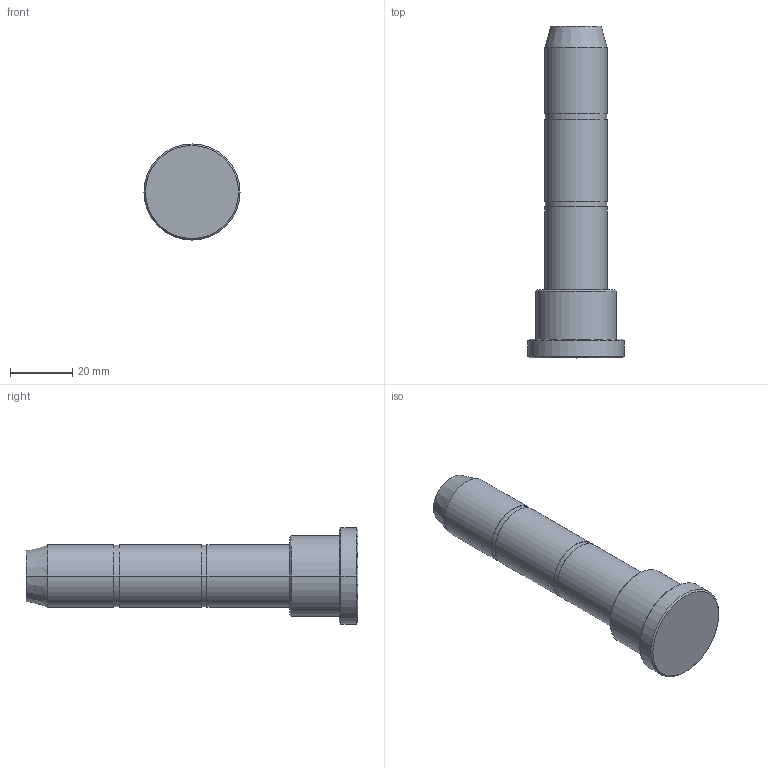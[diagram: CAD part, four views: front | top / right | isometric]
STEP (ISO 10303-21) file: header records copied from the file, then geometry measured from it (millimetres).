
FILE_DESCRIPTION (( 'STEP AP214' ), '1' );
FILE_NAME ('BR03 20x22x85.STEP', '2019-04-15T07:59:46', ( 'August' ), ( '' ), 'SwSTEP 2.0', 'SolidWorks 2018', '' );
FILE_SCHEMA (( 'AUTOMOTIVE_DESIGN' ));
Length unit declared in the file: millimetre
Products named in the file (1): BR03 20x22x85
Bounding box: 31 x 107 x 31 mm (x, y, z)
Volume: 39275 mm3; surface area: 8559.8 mm2
Topology: 1 solids, 1 shells, 30 faces, 58 edges, 36 vertices
Faces by surface type: cylinder 14, cone 8, plane 8
Entity records: 808 total; most frequent: DIRECTION 156, CARTESIAN_POINT 125, ORIENTED_EDGE 116, AXIS2_PLACEMENT_3D 67, EDGE_CURVE 58, EDGE_LOOP 36, VERTEX_POINT 36, CIRCLE 36
